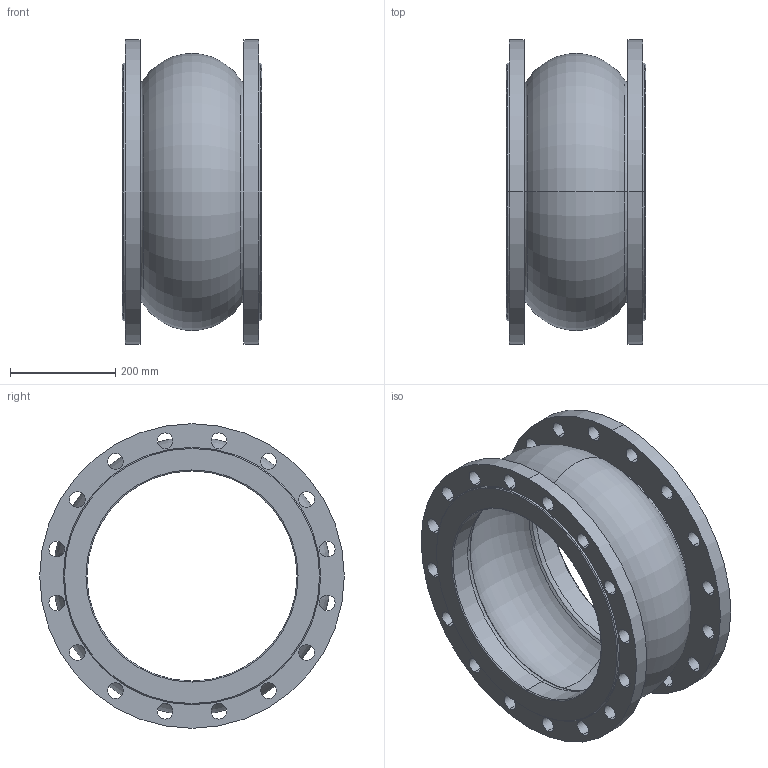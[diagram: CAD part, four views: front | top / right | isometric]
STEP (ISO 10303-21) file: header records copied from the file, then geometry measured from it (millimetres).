
FILE_DESCRIPTION (( 'STEP AP203' ), '1' );
FILE_NAME ('F8_PN16_DN400.STEP', '2012-10-31T09:23:27', ( 'luca.saino' ), ( 'Hewlett-Packard Company' ), 'SwSTEP 2.0', 'SolidWorks 2012', '' );
FILE_SCHEMA (( 'CONFIG_CONTROL_DESIGN' ));
Length unit declared in the file: millimetre
Products named in the file (1): F8_PN16_DN400
Bounding box: 266 x 580 x 580 mm (x, y, z)
Volume: 12637389 mm3; surface area: 1495793.9 mm2
Topology: 1 solids, 1 shells, 106 faces, 276 edges, 176 vertices
Faces by surface type: cylinder 76, torus 16, cone 8, plane 6
Entity records: 3549 total; most frequent: DIRECTION 682, CARTESIAN_POINT 559, ORIENTED_EDGE 552, AXIS2_PLACEMENT_3D 299, EDGE_CURVE 276, CIRCLE 192, EDGE_LOOP 176, VERTEX_POINT 176
